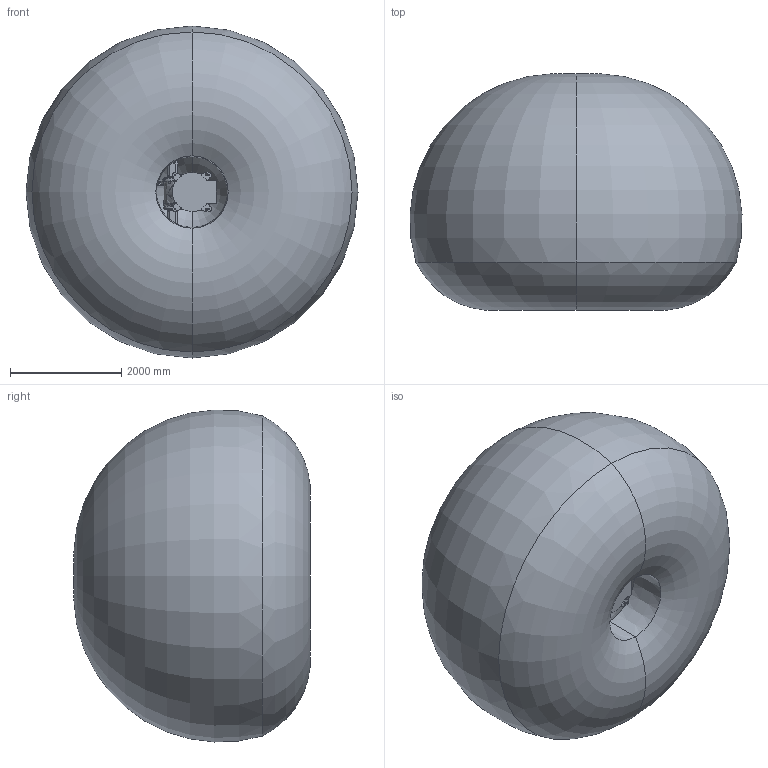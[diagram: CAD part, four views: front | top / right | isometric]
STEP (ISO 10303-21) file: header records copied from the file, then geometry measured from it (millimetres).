
FILE_DESCRIPTION (( 'STEP AP214' ), '1' );
FILE_NAME ('SMART-5 NJ-110-3.0 (3D-STEP).STEP', '2010-11-29T12:55:55', ( '' ), ( '' ), 'SwSTEP 2.0', 'SolidWorks 2007', '' );
FILE_SCHEMA (( 'AUTOMOTIVE_DESIGN' ));
Length unit declared in the file: millimetre
Products named in the file (16): SMART-5 NJ-110-3.0_p04; SMART-5 NJ-110-3.0_p08; SMART-5 NJ-110-3.0_p07; SMART-5 NJ-110-3.0_p06; SMART-5 NJ-110-3.0_p05; SMART-5 NJ-110-3.0_p09; SMART-5 NJ-110-3.0_p10; SMART-5 NJ-110-3.0_CR82350050_SM; SMART-5 NJ-110-3.0_CR82350080_SM; SMART-5 NJ-110-3.0_CR82350070_SM; Operation Area SMART-5 NJ 110-3.0; SMART-5 NJ-110-3.0_CR82350030_SM; SMART-5 NJ-110-3.0_p03; SMART-5 NJ-110-3.0_p02; SMART-5 NJ-110-3.0_p01; SMART-5 NJ-110-3.0 (3D-STEP)
Assembly tree (16 placements, depth 2):
  SMART-5 NJ-110-3.0 (3D-STEP)
    SMART-5 NJ-110-3.0_p04
    SMART-5 NJ-110-3.0_CR82350080_SM
    SMART-5 NJ-110-3.0_CR82350030_SM
    SMART-5 NJ-110-3.0_p01
    SMART-5 NJ-110-3.0_CR82350050_SM
    SMART-5 NJ-110-3.0_p06
    SMART-5 NJ-110-3.0_p10
    SMART-5 NJ-110-3.0_p05
    SMART-5 NJ-110-3.0_p08
    SMART-5 NJ-110-3.0_p03
    SMART-5 NJ-110-3.0_p02
    Operation Area SMART-5 NJ 110-3.0
    SMART-5 NJ-110-3.0_CR82350070_SM  x2
    SMART-5 NJ-110-3.0_p09
    SMART-5 NJ-110-3.0_p07
Bounding box: 5957.49 x 4238.5 x 5957.49 mm (x, y, z)
Volume: 82528898006 mm3; surface area: 124554594.3 mm2
Topology: 16 solids, 17 shells, 2805 faces, 7465 edges, 4830 vertices
Faces by surface type: plane 1290, cylinder 999, bspline 290, cone 176, torus 50
Entity records: 116759 total; most frequent: CARTESIAN_POINT 44977, ORIENTED_EDGE 14160, DIRECTION 12686, EDGE_CURVE 7080, VERTEX_POINT 4652, AXIS2_PLACEMENT_3D 4438, LINE 3810, VECTOR 3810
